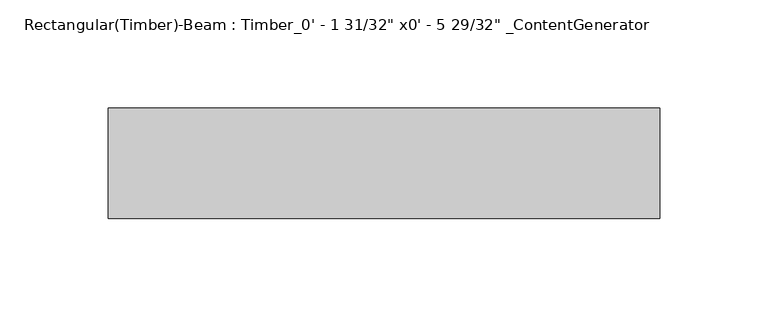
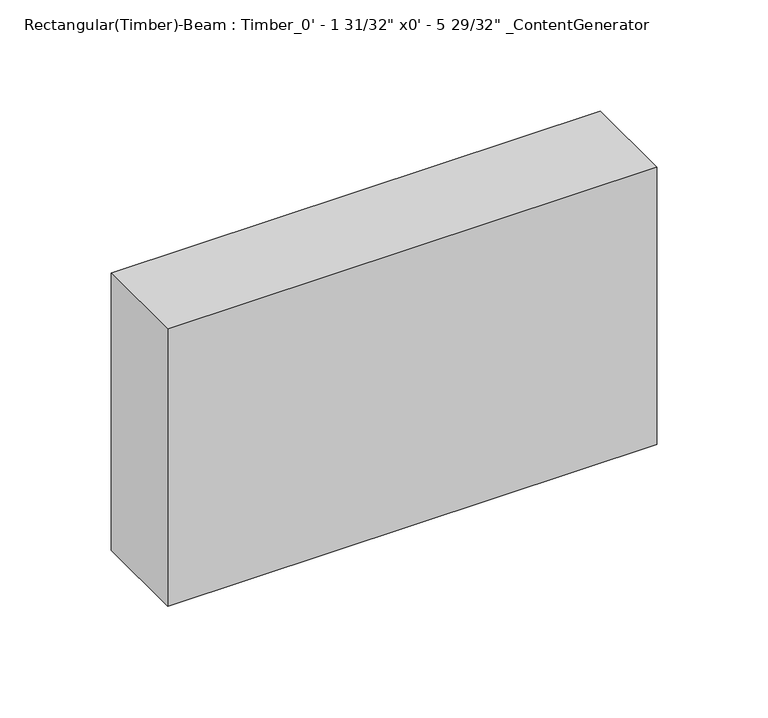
"""IFC4 building model written with IfcOpenShell, lengths in millimetres: beam geometry."""

from ifc_helpers import new_model, si_unit, frame, origin, place, context, project, spatial, polyline, outline, extrude, source, transform, mapped, element, save


def beam_887bc2fe(model_context):
    return source(origin(), model_context, "Body", "SweptSolid", [
        extrude(outline(polyline([(63.5049994, 25.4), (63.5049994, -25.4), (-190.5049994, -25.4), (-190.5049994, 25.4), (63.5049994, 25.4)])), frame((0.0, 0.0, -76.2), z_axis=(0.0, 0.0, 1.0), x_axis=(1.0, 0.0, 0.0)), (0.0, 0.0, 1.0), 152.4),
    ])


if __name__ == "__main__":
    model = new_model("IFC4")
    model_context = context("Model", 3, world=origin())
    ifc_project = project(units=[si_unit("LENGTHUNIT", "METRE", prefix="MILLI")], contexts=[model_context])
    site = spatial("IfcSite", under=ifc_project)
    building = spatial("IfcBuilding", under=site)
    placement = place(None, origin())
    beam_shape = beam_887bc2fe(model_context)
    element("IfcBeam", 1, ObjectType="Rectangular(Timber)-Beam : Timber_0' - 1 31/32\" x0' - 5 29/32\" _ContentGenerator", at=placement, inside=building, context=model_context, shape_type="MappedRepresentation", body=[
        mapped(beam_shape, transform((0.0, 0.0, 0.0), x_axis=(1.0, 0.0, 0.0), y_axis=(0.0, 1.0, 0.0), z_axis=(0.0, 0.0, 1.0))),
    ])
    save(model, "model.ifc")
